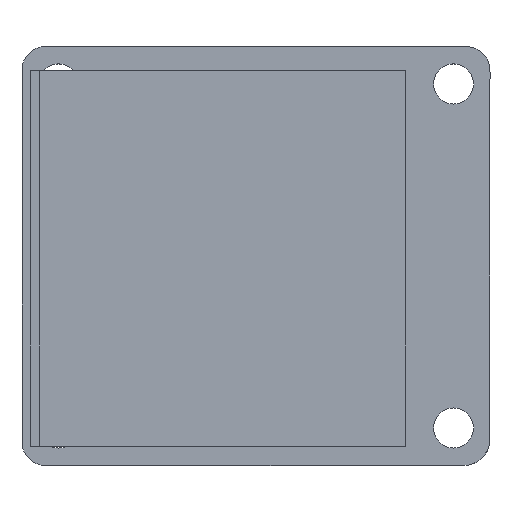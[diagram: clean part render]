
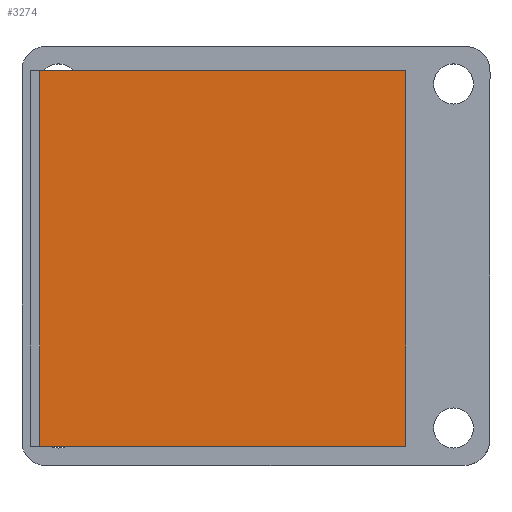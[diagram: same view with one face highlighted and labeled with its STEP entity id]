
A CAD part, top view. The second image highlights one B-rep face of the part: STEP entity #3274.
In plain terms, the highlighted planar face has unit normal (0, 0, 1).
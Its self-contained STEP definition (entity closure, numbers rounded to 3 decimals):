
#3274=ADVANCED_FACE('',(#3912),#3511,.T.);
#3511=PLANE('',#9866);
#3912=FACE_OUTER_BOUND('',#4416,.T.);
#4416=EDGE_LOOP('',(#6442,#6443,#6444,#6445));
#6442=ORIENTED_EDGE('',*,*,#8136,.T.);
#6443=ORIENTED_EDGE('',*,*,#8140,.T.);
#6444=ORIENTED_EDGE('',*,*,#8143,.T.);
#6445=ORIENTED_EDGE('',*,*,#8145,.T.);
#7124=VERTEX_POINT('',#21706);
#7125=VERTEX_POINT('',#21708);
#7127=VERTEX_POINT('',#21714);
#7129=VERTEX_POINT('',#21720);
#8136=EDGE_CURVE('',#7125,#7124,#8758,.T.);
#8140=EDGE_CURVE('',#7124,#7127,#8762,.T.);
#8143=EDGE_CURVE('',#7127,#7129,#8765,.T.);
#8145=EDGE_CURVE('',#7129,#7125,#8767,.T.);
#8758=LINE('',#21707,#9380);
#8762=LINE('',#21715,#9384);
#8765=LINE('',#21721,#9387);
#8767=LINE('',#21724,#9389);
#9380=VECTOR('',#11440,1.);
#9384=VECTOR('',#11446,1.);
#9387=VECTOR('',#11451,1.);
#9389=VECTOR('',#11455,1.);
#9866=AXIS2_PLACEMENT_3D('',#21726,#11458,#11459);
#11440=DIRECTION('',(-1.,0.,0.));
#11446=DIRECTION('',(0.,-1.,0.));
#11451=DIRECTION('',(1.,0.,0.));
#11455=DIRECTION('',(0.,1.,0.));
#11458=DIRECTION('',(0.,0.,1.));
#11459=DIRECTION('',(1.,0.,0.));
#21706=CARTESIAN_POINT('',(-11.1,11.6,1.6));
#21707=CARTESIAN_POINT('',(14.6,11.6,1.6));
#21708=CARTESIAN_POINT('',(11.7,11.6,1.6));
#21714=CARTESIAN_POINT('',(-11.1,-11.8,1.6));
#21715=CARTESIAN_POINT('',(-11.1,13.1,1.6));
#21720=CARTESIAN_POINT('',(11.7,-11.8,1.6));
#21721=CARTESIAN_POINT('',(-11.1,-11.8,1.6));
#21724=CARTESIAN_POINT('',(11.7,-13.1,1.6));
#21726=CARTESIAN_POINT('',(0.,0.,1.6));
